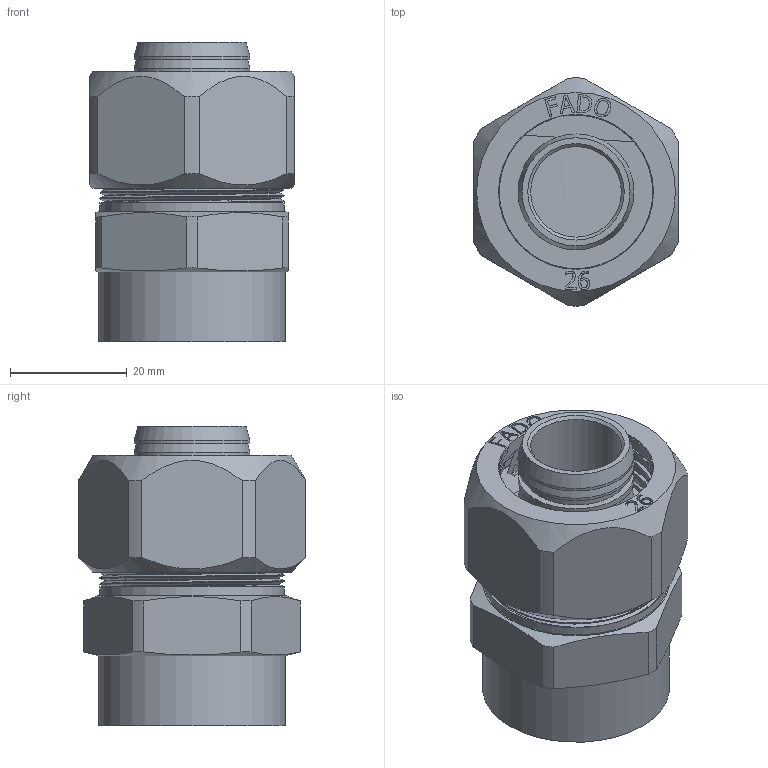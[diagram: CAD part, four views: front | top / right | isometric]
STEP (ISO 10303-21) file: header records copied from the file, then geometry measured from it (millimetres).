
FILE_DESCRIPTION(/* description */ (''),/* implementation_level */ '2;1');
FILE_NAME(/* name */ 'C:\Users\Doom\Desktop\Фадотех\Обжим\RFM15 26x1F 30.03.2020\RFM16 26x0.75F 30.03.2020.stp',/* time_stamp */ '2022-06-01T21:29:47+03:00',/* author */ ('Doom'),/* organization */ (''),/* preprocessor_version */ 'ST-DEVELOPER v18',/* originating_system */ 'Autodesk Inventor 2020',/* authorisation */ '');
FILE_SCHEMA (('AUTOMOTIVE_DESIGN { 1 0 10303 214 3 1 1 }'));
Length unit declared in the file: millimetre
Products named in the file (5): RFM16 26x0.75F 30.03.2020; RFM16 26x0.75F 30.03.2020_1; FADO MC Nut-26 15.02.2020; FADO MC Socket-26 15.02.2020; Olive 26 15.02.2020
Assembly tree (4 placements, depth 2):
  RFM16 26x0.75F 30.03.2020
    RFM16 26x0.75F 30.03.2020_1
    FADO MC Nut-26 15.02.2020
    FADO MC Socket-26 15.02.2020
    Olive 26 15.02.2020
Bounding box: 35 x 39 x 51.3 mm (x, y, z)
Volume: 23907.1 mm3; surface area: 28729.2 mm2
Topology: 7 solids, 7 shells, 532 faces, 1476 edges, 997 vertices
Faces by surface type: bspline 272, plane 142, cylinder 98, cone 18, torus 2
Full cylindrical faces by diameter (mm): 15.5 x1, 17.6 x2, 19.8 x5, 21 x1, 23.75 x8, 24 x2, 24.5 x1, 26.44 x2, 26.5 x1, 30 x1, 30.017 x2, 30.517 x11, 30.6 x1, 31.5 x10, 32 x3
Entity records: 36841 total; most frequent: CARTESIAN_POINT 24876, ORIENTED_EDGE 2936, DIRECTION 1621, EDGE_CURVE 1468, VERTEX_POINT 993, B_SPLINE_CURVE_WITH_KNOTS 629, EDGE_LOOP 587, AXIS2_PLACEMENT_3D 541
